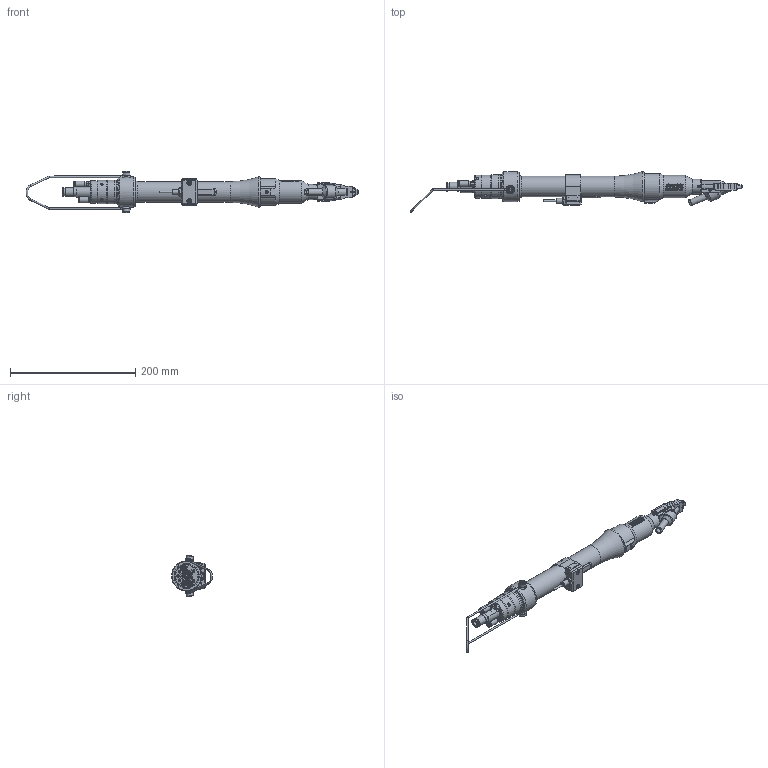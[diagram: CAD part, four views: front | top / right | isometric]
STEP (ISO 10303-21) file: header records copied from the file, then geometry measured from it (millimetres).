
FILE_DESCRIPTION(/* description */ (''),/* implementation_level */ '2;1');
FILE_NAME(/* name */ 'G:\Modelle für Marketing\3Ds Parasolid\3D_Parasolid_handheld_screwdriver_for_screws_HSH1000_series.x_b.ipt.stp',/* time_stamp */ '2016-07-28T11:55:28+02:00',/* author */ ('Wolf'),/* organization */ (''),/* preprocessor_version */ 'ST-DEVELOPER v15.2',/* originating_system */ 'Autodesk Inventor 2014',/* authorisation */ '');
FILE_SCHEMA (('AUTOMOTIVE_DESIGN { 1 0 10303 214 3 1 1 }'));
Products named in the file (1): 3D_Parasolid_handheld_screwdriver_for_screws_HSH1000_series.x_b
Bounding box: 529.3 x 65.4 x 65.72 mm (x, y, z)
Volume: 232015.7 mm3; surface area: 156324.2 mm2
Topology: 12 solids, 30 shells, 2056 faces, 5617 edges, 3607 vertices
Faces by surface type: plane 891, cylinder 744, cone 241, bspline 108, torus 60, sphere 12
Full cylindrical faces by diameter (mm): 0.505 x1, 0.547 x1, 1.1 x1, 1.2 x2, 1.3 x1, 1.35 x1, 1.6 x2, 2 x15, 2.1 x1, 2.4 x24, 2.5 x13, 2.6 x2, 2.8 x1, 2.9 x2, 3 x20, 3.03 x1, 3.04 x2, 3.1 x4, 3.2 x6, 3.242 x4, 3.3 x1, 3.6 x1, 4 x20, 4.1 x2, 4.134 x9, 4.5 x8, 4.7 x1, 4.847 x1, 4.917 x6, 5 x9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
Entity records: 77279 total; most frequent: CARTESIAN_POINT 28750, DIRECTION 9366, ORIENTED_EDGE 9364, EDGE_CURVE 4682, AXIS2_PLACEMENT_3D 3785, VERTEX_POINT 3277, EDGE_LOOP 2892, ADVANCED_FACE 2049
